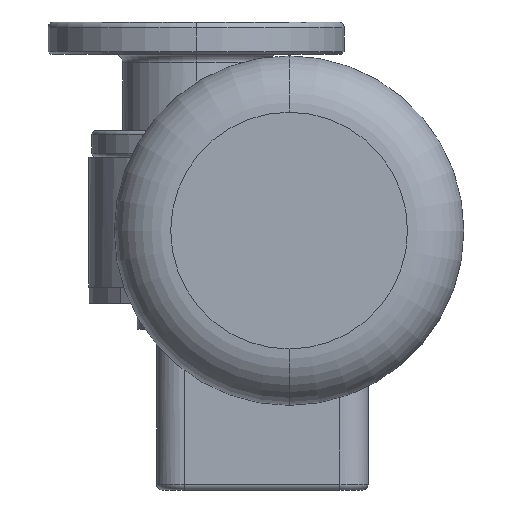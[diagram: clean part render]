
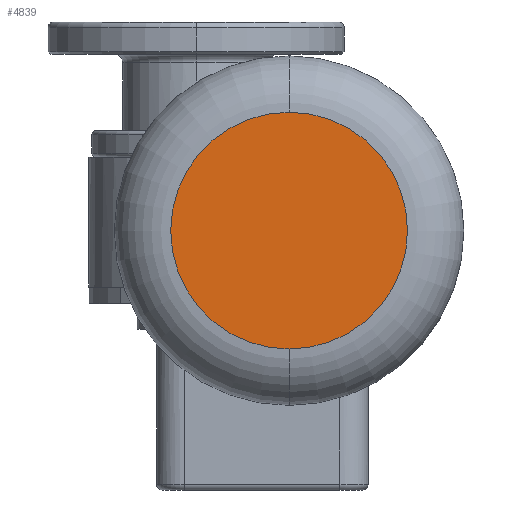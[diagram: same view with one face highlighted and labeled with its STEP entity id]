
A CAD part, left-side view. The second image highlights one B-rep face of the part: STEP entity #4839.
In plain terms, the highlighted planar face has unit normal (-1, 0, 0).
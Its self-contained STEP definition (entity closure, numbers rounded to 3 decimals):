
#538 = CIRCLE ( 'NONE', #10865, 42. ) ;
#596 = DIRECTION ( 'NONE',  ( 1., 0., 0. ) ) ;
#659 = FACE_OUTER_BOUND ( 'NONE', #3006, .T. ) ;
#1649 = ORIENTED_EDGE ( 'NONE', *, *, #8841, .T. ) ;
#1862 = ORIENTED_EDGE ( 'NONE', *, *, #5088, .T. ) ;
#2001 = DIRECTION ( 'NONE',  ( 0., 0., -1. ) ) ;
#2183 = CARTESIAN_POINT ( 'NONE',  ( -233., 0., 0. ) ) ;
#2696 = CARTESIAN_POINT ( 'NONE',  ( -233., 0., 0. ) ) ;
#3006 = EDGE_LOOP ( 'NONE', ( #1862, #1649 ) ) ;
#3535 = CARTESIAN_POINT ( 'NONE',  ( -233., 0., 42. ) ) ;
#4467 = AXIS2_PLACEMENT_3D ( 'NONE', #2696, #596, #7614 ) ;
#4839 = ADVANCED_FACE ( 'NONE', ( #659 ), #12557, .F. ) ;
#5088 = EDGE_CURVE ( 'NONE', #12305, #11540, #8895, .T. ) ;
#5238 = CARTESIAN_POINT ( 'NONE',  ( -233., 0., 0. ) ) ;
#7614 = DIRECTION ( 'NONE',  ( 0., 0., -1. ) ) ;
#8169 = DIRECTION ( 'NONE',  ( -1., 0., 0. ) ) ;
#8329 = CARTESIAN_POINT ( 'NONE',  ( -233., 0., -42. ) ) ;
#8477 = AXIS2_PLACEMENT_3D ( 'NONE', #5238, #12048, #2001 ) ;
#8841 = EDGE_CURVE ( 'NONE', #11540, #12305, #538, .T. ) ;
#8895 = CIRCLE ( 'NONE', #8477, 42. ) ;
#10865 = AXIS2_PLACEMENT_3D ( 'NONE', #2183, #8169, #12176 ) ;
#11540 = VERTEX_POINT ( 'NONE', #3535 ) ;
#12048 = DIRECTION ( 'NONE',  ( -1., 0., 0. ) ) ;
#12176 = DIRECTION ( 'NONE',  ( 0., 0., -1. ) ) ;
#12305 = VERTEX_POINT ( 'NONE', #8329 ) ;
#12557 = PLANE ( 'NONE',  #4467 ) ;
